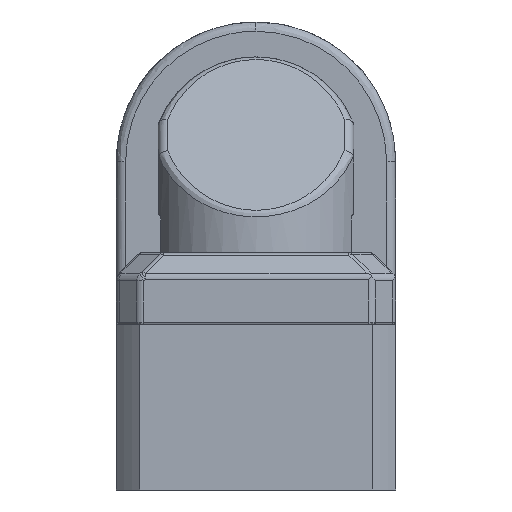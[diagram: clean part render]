
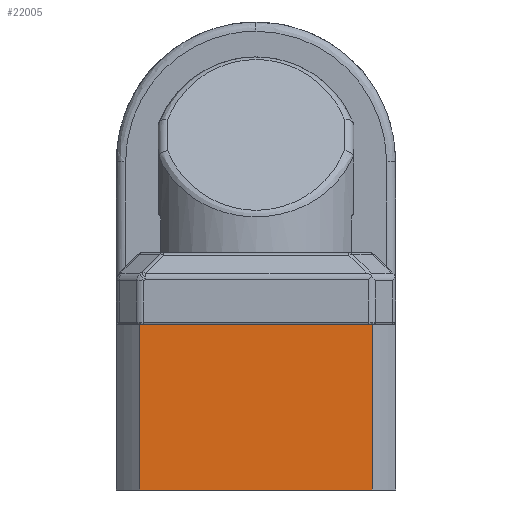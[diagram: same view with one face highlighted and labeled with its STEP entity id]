
A CAD part, front view. The second image highlights one B-rep face of the part: STEP entity #22005.
In plain terms, the highlighted planar face has unit normal (0, -1, 0).
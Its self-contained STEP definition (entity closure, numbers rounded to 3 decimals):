
#2001 = EDGE_CURVE ( 'NONE', #43980, #5185, #2873, .T. ) ;
#2535 = DIRECTION ( 'NONE',  ( 0., 0., -1. ) ) ;
#2873 = LINE ( 'NONE', #38497, #30885 ) ;
#2991 = CARTESIAN_POINT ( 'NONE',  ( -30., -30., -35.5 ) ) ;
#5185 = VERTEX_POINT ( 'NONE', #5319 ) ;
#5319 = CARTESIAN_POINT ( 'NONE',  ( 24.92, -30., -35.5 ) ) ;
#7828 = ORIENTED_EDGE ( 'NONE', *, *, #2001, .T. ) ;
#10341 = PLANE ( 'NONE',  #33708 ) ;
#13866 = CARTESIAN_POINT ( 'NONE',  ( 24.92, -30., 0. ) ) ;
#14001 = DIRECTION ( 'NONE',  ( 0., -1., 0. ) ) ;
#16688 = EDGE_CURVE ( 'NONE', #41943, #5185, #19336, .T. ) ;
#16924 = ORIENTED_EDGE ( 'NONE', *, *, #33757, .T. ) ;
#17103 = CARTESIAN_POINT ( 'NONE',  ( -24.92, -30., -35.5 ) ) ;
#19113 = VERTEX_POINT ( 'NONE', #20378 ) ;
#19336 = LINE ( 'NONE', #13866, #37635 ) ;
#20378 = CARTESIAN_POINT ( 'NONE',  ( -24.92, -30., 0. ) ) ;
#22005 = ADVANCED_FACE ( 'NONE', ( #44678 ), #10341, .T. ) ;
#25164 = CARTESIAN_POINT ( 'NONE',  ( 24.92, -30., 0. ) ) ;
#25653 = EDGE_LOOP ( 'NONE', ( #16924, #7828, #32293, #32670 ) ) ;
#28411 = VECTOR ( 'NONE', #46630, 1000. ) ;
#30885 = VECTOR ( 'NONE', #45722, 1000. ) ;
#32293 = ORIENTED_EDGE ( 'NONE', *, *, #16688, .F. ) ;
#32670 = ORIENTED_EDGE ( 'NONE', *, *, #41146, .T. ) ;
#33708 = AXIS2_PLACEMENT_3D ( 'NONE', #2991, #14001, #39586 ) ;
#33757 = EDGE_CURVE ( 'NONE', #19113, #43980, #47426, .T. ) ;
#35195 = CARTESIAN_POINT ( 'NONE',  ( -24.92, -30., -35.5 ) ) ;
#36518 = VECTOR ( 'NONE', #46860, 1000. ) ;
#37635 = VECTOR ( 'NONE', #2535, 1000. ) ;
#38114 = LINE ( 'NONE', #42914, #28411 ) ;
#38497 = CARTESIAN_POINT ( 'NONE',  ( 0., -30., -35.5 ) ) ;
#39586 = DIRECTION ( 'NONE',  ( 0., 0., -1. ) ) ;
#41146 = EDGE_CURVE ( 'NONE', #41943, #19113, #38114, .T. ) ;
#41943 = VERTEX_POINT ( 'NONE', #25164 ) ;
#42914 = CARTESIAN_POINT ( 'NONE',  ( 0., -30., 0. ) ) ;
#43980 = VERTEX_POINT ( 'NONE', #35195 ) ;
#44678 = FACE_OUTER_BOUND ( 'NONE', #25653, .T. ) ;
#45722 = DIRECTION ( 'NONE',  ( 1., 0., 0. ) ) ;
#46630 = DIRECTION ( 'NONE',  ( -1., 0., 0. ) ) ;
#46860 = DIRECTION ( 'NONE',  ( 0., 0., -1. ) ) ;
#47426 = LINE ( 'NONE', #17103, #36518 ) ;
